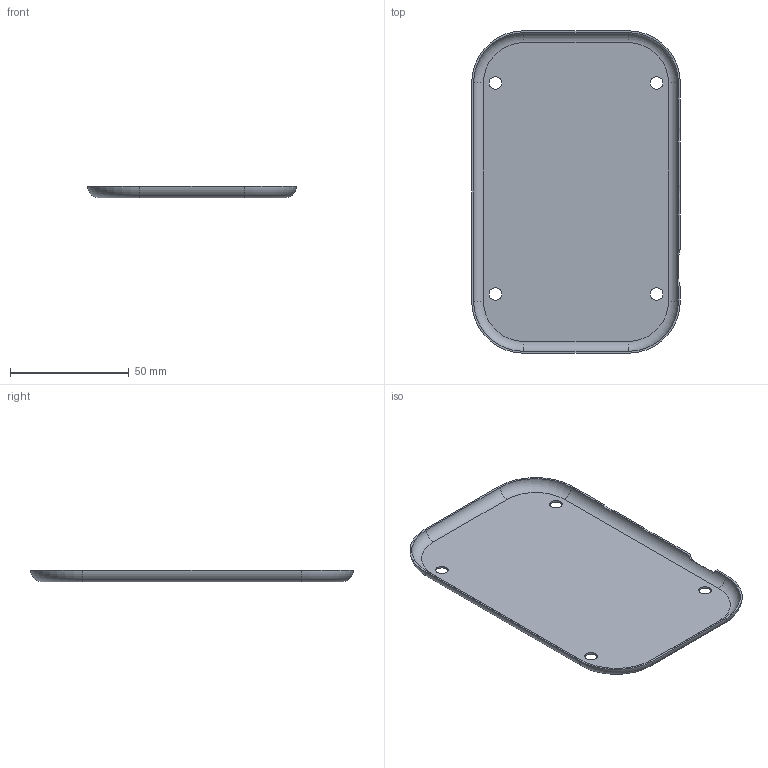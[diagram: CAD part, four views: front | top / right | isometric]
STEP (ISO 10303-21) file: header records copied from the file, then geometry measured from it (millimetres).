
FILE_DESCRIPTION(('Open CASCADE Model'),'2;1');
FILE_NAME('Open CASCADE Shape Model','2026-09-06T11:30:37',('Author'),( 'Open CASCADE'),'Open CASCADE STEP processor 7.7','Open CASCADE 7.7' ,'Unknown');
FILE_SCHEMA(('AUTOMOTIVE_DESIGN { 1 0 10303 214 1 1 1 1 }'));
Length unit declared in the file: millimetre
Products named in the file (1): Open CASCADE STEP translator 7.7 23
Bounding box: 88 x 136 x 4.95 mm (x, y, z)
Volume: 9844.4 mm3; surface area: 25006.1 mm2
Topology: 1 solids, 1 shells, 38 faces, 108 edges, 72 vertices
Faces by surface type: cylinder 20, plane 10, torus 8
Full cylindrical faces by diameter (mm): 5.3 x4
Entity records: 3083 total; most frequent: CARTESIAN_POINT 1047, DIRECTION 351, ORIENTED_EDGE 216, PCURVE 216, DEFINITIONAL_REPRESENTATION 216, LINE 182, VECTOR 182, EDGE_CURVE 108
